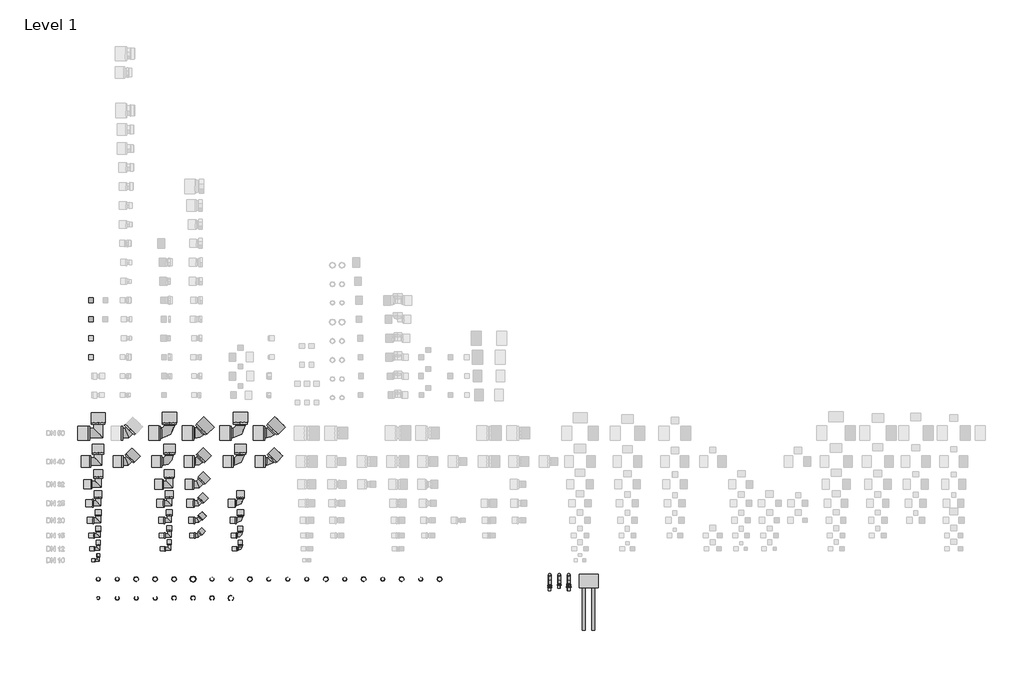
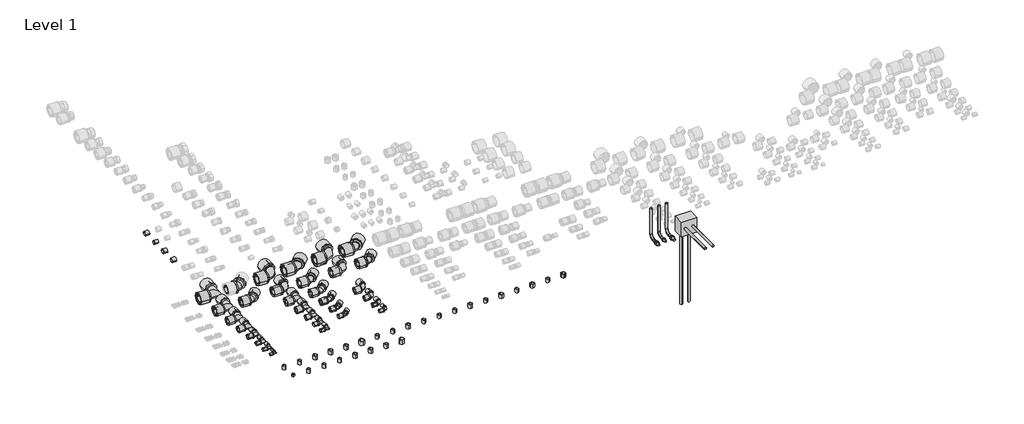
# One storey, part 1 of 6: 126 pipe fittings.
"""IFC4 building model written with IfcOpenShell, lengths in millimetres."""

from ifc_helpers import new_model, si_unit, origin, place, context, project, spatial, transform, mapped, element, save
from components import pipe_fitting_2a92aeec, pipe_fitting_fae9ecd5, pipe_fitting_8b410e5b, pipe_fitting_749d9a03, pipe_fitting_f073d995, pipe_fitting_893392b9, pipe_fitting_709f2c42, pipe_fitting_0a56e29a, pipe_fitting_0746f0ab, pipe_fitting_7ed082ec, pipe_fitting_6fe5a3bb, pipe_fitting_19f48449, pipe_fitting_396ce9a4, pipe_fitting_b82b2fb3, pipe_fitting_1876d1a3, pipe_fitting_9b72dc0c, pipe_fitting_37e15ff8, pipe_fitting_91b0a5e7, pipe_fitting_5c01712a, pipe_fitting_dda8fcc3, pipe_fitting_b25a488c, pipe_fitting_af3e73ed, pipe_fitting_43d15cd9, pipe_fitting_b53712a9, pipe_fitting_861f7b7c, pipe_fitting_66fdde34, pipe_fitting_cdf9e88e, pipe_fitting_7f654206, pipe_fitting_8abba781, pipe_fitting_f0699bc9, pipe_fitting_3b3abbc6, pipe_fitting_4c711bda, pipe_fitting_495cc192, pipe_fitting_8f4a0f1d, pipe_fitting_bdc09fba, pipe_fitting_9d39727a, pipe_fitting_b4838fa6, pipe_fitting_90966a7d, pipe_fitting_6415dcd3, pipe_fitting_7242fcfe, pipe_fitting_c9c9eba3, pipe_fitting_037c3912, pipe_fitting_a8fbe6ac, pipe_fitting_d8f8e9d9, pipe_fitting_02b715f6, pipe_fitting_7a5bf8d1, pipe_fitting_8395c290, pipe_fitting_12adc400, pipe_fitting_81f8a68e, pipe_fitting_8ffa6d79, pipe_fitting_13d5c0a8, pipe_fitting_785edea0

model = new_model("IFC4")

# Units and contexts
model_context = context("Model", 3, world=origin())
ifc_project = project(units=[si_unit("LENGTHUNIT", "METRE", prefix="MILLI")], contexts=[model_context])

# Site, building, storey
site = spatial("IfcSite", under=ifc_project)
building = spatial("IfcBuilding", under=site)
storey = spatial("IfcBuildingStorey", under=building, Name="Level 1", Elevation=0.0)

# Pipe fittings
placement = place(None, origin())
pipe_fitting_shape = pipe_fitting_2a92aeec(model_context)
element("IfcPipeFitting", 1, ObjectType="RAUTITAN_Corner_PX : RTI PX C DE", at=placement, inside=storey, context=model_context, shape_type="MappedRepresentation", body=[
    mapped(pipe_fitting_shape, transform((375.0, 400.0, 0.0), x_axis=(1.0, 0.0, 0.0), y_axis=(0.0, 1.0, 0.0), z_axis=(0.0, 0.0, 1.0))),
])
pipe_fitting_2_shape = pipe_fitting_fae9ecd5(model_context)
element("IfcPipeFitting", 2, ObjectType="RAUTITAN_Corner_RX+ stabil : RTI RX+ stabil C DE", at=placement, inside=storey, context=model_context, shape_type="MappedRepresentation", body=[
    mapped(pipe_fitting_2_shape, transform((375.0, 670.0, 0.0), x_axis=(1.0, 0.0, 0.0), y_axis=(0.0, 1.0, 0.0), z_axis=(0.0, 0.0, 1.0))),
])
pipe_fitting_3_shape = pipe_fitting_8b410e5b(model_context)
element("IfcPipeFitting", 3, ObjectType="RAUTITAN_Corner_RX+ : RTI RX+ C DE", at=placement, inside=storey, context=model_context, shape_type="MappedRepresentation", body=[
    mapped(pipe_fitting_3_shape, transform((750.0, 670.0, 0.0), x_axis=(1.0, 0.0, 0.0), y_axis=(0.0, 1.0, 0.0), z_axis=(0.0, 0.0, 1.0))),
])
pipe_fitting_4_shape = pipe_fitting_749d9a03(model_context)
element("IfcPipeFitting", 4, ObjectType="RAUTITAN_Sleeve PX : RTI S PX", at=placement, inside=storey, context=model_context, shape_type="MappedRepresentation", body=[
    mapped(pipe_fitting_4_shape, transform((200.0, -100.0, -24.8), x_axis=(0.0, 0.0, -1.0), y_axis=(0.0, 1.0, 0.0), z_axis=(1.0, 0.0, 0.0))),
])
element("IfcPipeFitting", 5, ObjectType="RAUTITAN_Sleeve PX : RTI S PX", at=placement, inside=storey, context=model_context, shape_type="MappedRepresentation", body=[
    mapped(pipe_fitting_4_shape, transform((300.0, -100.0, -24.8), x_axis=(0.0, 0.0, -1.0), y_axis=(0.0, 1.0, 0.0), z_axis=(1.0, 0.0, 0.0))),
])
element("IfcPipeFitting", 6, ObjectType="RAUTITAN_Sleeve PX : RTI S PX", at=placement, inside=storey, context=model_context, shape_type="MappedRepresentation", body=[
    mapped(pipe_fitting_4_shape, transform((400.0, -100.0, -27.8), x_axis=(0.0, 0.0, -1.0), y_axis=(0.0, 1.0, 0.0), z_axis=(1.0, 0.0, 0.0))),
])
element("IfcPipeFitting", 7, ObjectType="RAUTITAN_Sleeve PX : RTI S PX", at=placement, inside=storey, context=model_context, shape_type="MappedRepresentation", body=[
    mapped(pipe_fitting_4_shape, transform((799.9229442, -100.0, -24.8), x_axis=(0.0, 0.0, -1.0), y_axis=(0.0, 1.0, 0.0), z_axis=(1.0, 0.0, 0.0))),
])
element("IfcPipeFitting", 8, ObjectType="RAUTITAN_Sleeve PX : RTI S PX", at=placement, inside=storey, context=model_context, shape_type="MappedRepresentation", body=[
    mapped(pipe_fitting_4_shape, transform((1199.7688327, -100.0, -24.8), x_axis=(0.0, 0.0, -1.0), y_axis=(0.0, 1.0, 0.0), z_axis=(1.0, 0.0, 0.0))),
])
element("IfcPipeFitting", 9, ObjectType="RAUTITAN_Sleeve PX : RTI S PX", at=placement, inside=storey, context=model_context, shape_type="MappedRepresentation", body=[
    mapped(pipe_fitting_4_shape, transform((1399.6917769, -100.0, -24.8), x_axis=(0.0, 0.0, -1.0), y_axis=(0.0, 1.0, 0.0), z_axis=(1.0, 0.0, 0.0))),
])
element("IfcPipeFitting", 10, ObjectType="RAUTITAN_Sleeve PX : RTI S PX", at=placement, inside=storey, context=model_context, shape_type="MappedRepresentation", body=[
    mapped(pipe_fitting_4_shape, transform((1599.6147211, -100.0, -24.8), x_axis=(0.0, 0.0, -1.0), y_axis=(0.0, 1.0, 0.0), z_axis=(1.0, 0.0, 0.0))),
])
element("IfcPipeFitting", 11, ObjectType="RAUTITAN_Sleeve PX : RTI S PX", at=placement, inside=storey, context=model_context, shape_type="MappedRepresentation", body=[
    mapped(pipe_fitting_4_shape, transform((1799.5376653, -100.0, -24.8), x_axis=(0.0, 0.0, -1.0), y_axis=(0.0, 1.0, 0.0), z_axis=(1.0, 0.0, 0.0))),
])
pipe_fitting_5_shape = pipe_fitting_f073d995(model_context)
element("IfcPipeFitting", 12, ObjectType="RAUTITAN_Corner_LX : RTI LX C DE", at=placement, inside=storey, context=model_context, shape_type="MappedRepresentation", body=[
    mapped(pipe_fitting_5_shape, transform((150.0, 520.0, 0.0), x_axis=(1.0, 0.0, 0.0), y_axis=(0.0, 1.0, 0.0), z_axis=(0.0, 0.0, 1.0))),
])
pipe_fitting_6_shape = pipe_fitting_893392b9(model_context)
element("IfcPipeFitting", 13, ObjectType="RAUTITAN_Corner_LX : RTI LX C NL", at=placement, inside=storey, context=model_context, shape_type="MappedRepresentation", body=[
    mapped(pipe_fitting_6_shape, transform((0.0, 0.0, 0.0), x_axis=(1.0, 0.0, 0.0), y_axis=(0.0, 1.0, 0.0), z_axis=(0.0, 0.0, 1.0))),
])
pipe_fitting_7_shape = pipe_fitting_709f2c42(model_context)
element("IfcPipeFitting", 14, ObjectType="RAUTITAN_Sleeve SDR 7,4 : RTI S SDR 7,4", at=placement, inside=storey, context=model_context, shape_type="MappedRepresentation", body=[
    mapped(pipe_fitting_7_shape, transform((-18.0, 0.0, 0.0), x_axis=(-1.0, 0.0, 0.0), y_axis=(0.0, -1.0, 0.0), z_axis=(0.0, 0.0, 1.0))),
])
element("IfcPipeFitting", 15, ObjectType="RAUTITAN_Sleeve SDR 7,4 : RTI S SDR 7,4", at=placement, inside=storey, context=model_context, shape_type="MappedRepresentation", body=[
    mapped(pipe_fitting_7_shape, transform((0.0, 18.0, 0.0), x_axis=(0.0, 1.0, 0.0), y_axis=(-1.0, 0.0, 0.0), z_axis=(0.0, 0.0, 1.0))),
])
element("IfcPipeFitting", 16, ObjectType="RAUTITAN_Sleeve SDR 7,4 : RTI S SDR 7,4", at=placement, inside=storey, context=model_context, shape_type="MappedRepresentation", body=[
    mapped(pipe_fitting_7_shape, transform((0.0, -200.0, -23.0), x_axis=(0.0, 0.0, -1.0), y_axis=(0.0, 1.0, 0.0), z_axis=(1.0, 0.0, 0.0))),
])
pipe_fitting_8_shape = pipe_fitting_0a56e29a(model_context)
element("IfcPipeFitting", 17, ObjectType="RAUTITAN_Corner_LX : RTI LX C NL", at=placement, inside=storey, context=model_context, shape_type="MappedRepresentation", body=[
    mapped(pipe_fitting_8_shape, transform((0.0, 60.0, 0.0), x_axis=(1.0, 0.0, 0.0), y_axis=(0.0, 1.0, 0.0), z_axis=(0.0, 0.0, 1.0))),
])
pipe_fitting_9_shape = pipe_fitting_0746f0ab(model_context)
element("IfcPipeFitting", 18, ObjectType="RAUTITAN_Sleeve SDR 7,4 : RTI S SDR 7,4", at=placement, inside=storey, context=model_context, shape_type="MappedRepresentation", body=[
    mapped(pipe_fitting_9_shape, transform((-21.0, 60.0, 0.0), x_axis=(-1.0, 0.0, 0.0), y_axis=(0.0, -1.0, 0.0), z_axis=(0.0, 0.0, 1.0))),
])
element("IfcPipeFitting", 19, ObjectType="RAUTITAN_Sleeve SDR 7,4 : RTI S SDR 7,4", at=placement, inside=storey, context=model_context, shape_type="MappedRepresentation", body=[
    mapped(pipe_fitting_9_shape, transform((0.0, 81.0, 0.0), x_axis=(0.0, 1.0, 0.0), y_axis=(-1.0, 0.0, 0.0), z_axis=(0.0, 0.0, 1.0))),
])
element("IfcPipeFitting", 20, ObjectType="RAUTITAN_Sleeve SDR 7,4 : RTI S SDR 7,4", at=placement, inside=storey, context=model_context, shape_type="MappedRepresentation", body=[
    mapped(pipe_fitting_9_shape, transform((100.0, -200.0, -24.3), x_axis=(0.0, 0.0, -1.0), y_axis=(0.0, 1.0, 0.0), z_axis=(1.0, 0.0, 0.0))),
])
element("IfcPipeFitting", 21, ObjectType="RAUTITAN_Sleeve SDR 7,4 : RTI S SDR 7,4", at=placement, inside=storey, context=model_context, shape_type="MappedRepresentation", body=[
    mapped(pipe_fitting_9_shape, transform((200.0, -200.0, -24.3), x_axis=(0.0, 0.0, -1.0), y_axis=(0.0, 1.0, 0.0), z_axis=(1.0, 0.0, 0.0))),
])
element("IfcPipeFitting", 22, ObjectType="RAUTITAN_Sleeve SDR 7,4 : RTI S SDR 7,4", at=placement, inside=storey, context=model_context, shape_type="MappedRepresentation", body=[
    mapped(pipe_fitting_9_shape, transform((300.0, -200.0, -22.3), x_axis=(0.0, 0.0, -1.0), y_axis=(0.0, 1.0, 0.0), z_axis=(1.0, 0.0, 0.0))),
])
pipe_fitting_10_shape = pipe_fitting_7ed082ec(model_context)
element("IfcPipeFitting", 23, ObjectType="RAUTITAN_Corner_LX : RTI LX C NL", at=placement, inside=storey, context=model_context, shape_type="MappedRepresentation", body=[
    mapped(pipe_fitting_10_shape, transform((0.0, 130.0, 0.0), x_axis=(1.0, 0.0, 0.0), y_axis=(0.0, 1.0, 0.0), z_axis=(0.0, 0.0, 1.0))),
])
pipe_fitting_11_shape = pipe_fitting_6fe5a3bb(model_context)
element("IfcPipeFitting", 24, ObjectType="RAUTITAN_Sleeve SDR 7,4 : RTI S SDR 7,4", at=placement, inside=storey, context=model_context, shape_type="MappedRepresentation", body=[
    mapped(pipe_fitting_11_shape, transform((-23.5, 130.0, 0.0), x_axis=(-1.0, 0.0, 0.0), y_axis=(0.0, -1.0, 0.0), z_axis=(0.0, 0.0, 1.0))),
])
element("IfcPipeFitting", 25, ObjectType="RAUTITAN_Sleeve SDR 7,4 : RTI S SDR 7,4", at=placement, inside=storey, context=model_context, shape_type="MappedRepresentation", body=[
    mapped(pipe_fitting_11_shape, transform((0.0, 153.5, 0.0), x_axis=(0.0, 1.0, 0.0), y_axis=(-1.0, 0.0, 0.0), z_axis=(0.0, 0.0, 1.0))),
])
element("IfcPipeFitting", 26, ObjectType="RAUTITAN_Sleeve SDR 7,4 : RTI S SDR 7,4", at=placement, inside=storey, context=model_context, shape_type="MappedRepresentation", body=[
    mapped(pipe_fitting_11_shape, transform((400.0, -200.0, -24.8), x_axis=(0.0, 0.0, -1.0), y_axis=(0.0, 1.0, 0.0), z_axis=(1.0, 0.0, 0.0))),
])
element("IfcPipeFitting", 27, ObjectType="RAUTITAN_Sleeve SDR 7,4 : RTI S SDR 7,4", at=placement, inside=storey, context=model_context, shape_type="MappedRepresentation", body=[
    mapped(pipe_fitting_11_shape, transform((500.0, -200.0, -24.8), x_axis=(0.0, 0.0, -1.0), y_axis=(0.0, 1.0, 0.0), z_axis=(1.0, 0.0, 0.0))),
])
element("IfcPipeFitting", 28, ObjectType="RAUTITAN_Sleeve SDR 7,4 : RTI S SDR 7,4", at=placement, inside=storey, context=model_context, shape_type="MappedRepresentation", body=[
    mapped(pipe_fitting_11_shape, transform((600.0, -200.0, -27.2), x_axis=(0.0, 0.0, -1.0), y_axis=(0.0, 1.0, 0.0), z_axis=(1.0, 0.0, 0.0))),
])
pipe_fitting_12_shape = pipe_fitting_19f48449(model_context)
element("IfcPipeFitting", 29, ObjectType="RAUTITAN_Corner_LX : RTI LX C NL", at=placement, inside=storey, context=model_context, shape_type="MappedRepresentation", body=[
    mapped(pipe_fitting_12_shape, transform((0.0, 210.0, 0.0), x_axis=(1.0, 0.0, 0.0), y_axis=(0.0, 1.0, 0.0), z_axis=(0.0, 0.0, 1.0))),
])
pipe_fitting_13_shape = pipe_fitting_396ce9a4(model_context)
element("IfcPipeFitting", 30, ObjectType="RAUTITAN_Sleeve SDR 7,4 : RTI S SDR 7,4", at=placement, inside=storey, context=model_context, shape_type="MappedRepresentation", body=[
    mapped(pipe_fitting_13_shape, transform((-27.6, 210.0, 0.0), x_axis=(-1.0, 0.0, 0.0), y_axis=(0.0, -1.0, 0.0), z_axis=(0.0, 0.0, 1.0))),
])
element("IfcPipeFitting", 31, ObjectType="RAUTITAN_Sleeve SDR 7,4 : RTI S SDR 7,4", at=placement, inside=storey, context=model_context, shape_type="MappedRepresentation", body=[
    mapped(pipe_fitting_13_shape, transform((0.0, 237.6, 0.0), x_axis=(0.0, 1.0, 0.0), y_axis=(-1.0, 0.0, 0.0), z_axis=(0.0, 0.0, 1.0))),
])
element("IfcPipeFitting", 32, ObjectType="RAUTITAN_Sleeve SDR 7,4 : RTI S SDR 7,4", at=placement, inside=storey, context=model_context, shape_type="MappedRepresentation", body=[
    mapped(pipe_fitting_13_shape, transform((699.9614721, -200.0, -27.6), x_axis=(0.0, 0.0, -1.0), y_axis=(0.0, 1.0, 0.0), z_axis=(1.0, 0.0, 0.0))),
])
pipe_fitting_14_shape = pipe_fitting_b82b2fb3(model_context)
element("IfcPipeFitting", 33, ObjectType="RAUTITAN_Corner_LX : RTI LX C NL", at=placement, inside=storey, context=model_context, shape_type="MappedRepresentation", body=[
    mapped(pipe_fitting_14_shape, transform((0.0, 300.0, 0.0), x_axis=(1.0, 0.0, 0.0), y_axis=(0.0, 1.0, 0.0), z_axis=(0.0, 0.0, 1.0))),
])
pipe_fitting_15_shape = pipe_fitting_1876d1a3(model_context)
element("IfcPipeFitting", 34, ObjectType="RAUTITAN_Sleeve SDR 7,4 : RTI S SDR 7,4", at=placement, inside=storey, context=model_context, shape_type="MappedRepresentation", body=[
    mapped(pipe_fitting_15_shape, transform((-31.5, 300.0, 0.0), x_axis=(-1.0, 0.0, 0.0), y_axis=(0.0, -1.0, 0.0), z_axis=(0.0, 0.0, 1.0))),
])
element("IfcPipeFitting", 35, ObjectType="RAUTITAN_Sleeve SDR 7,4 : RTI S SDR 7,4", at=placement, inside=storey, context=model_context, shape_type="MappedRepresentation", body=[
    mapped(pipe_fitting_15_shape, transform((0.0, 331.5, 0.0), x_axis=(0.0, 1.0, 0.0), y_axis=(-1.0, 0.0, 0.0), z_axis=(0.0, 0.0, 1.0))),
])
pipe_fitting_16_shape = pipe_fitting_9b72dc0c(model_context)
element("IfcPipeFitting", 36, ObjectType="RAUTITAN_Corner_LX : RTI LX C NL", at=placement, inside=storey, context=model_context, shape_type="MappedRepresentation", body=[
    mapped(pipe_fitting_16_shape, transform((0.0, 400.0, 0.0), x_axis=(1.0, 0.0, 0.0), y_axis=(0.0, 1.0, 0.0), z_axis=(0.0, 0.0, 1.0))),
])
pipe_fitting_17_shape = pipe_fitting_37e15ff8(model_context)
element("IfcPipeFitting", 37, ObjectType="RAUTITAN_Sleeve SDR 7,4 : RTI S SDR 7,4", at=placement, inside=storey, context=model_context, shape_type="MappedRepresentation", body=[
    mapped(pipe_fitting_17_shape, transform((-40.0, 400.0, 0.0), x_axis=(-1.0, 0.0, 0.0), y_axis=(0.0, -1.0, 0.0), z_axis=(0.0, 0.0, 1.0))),
])
element("IfcPipeFitting", 38, ObjectType="RAUTITAN_Sleeve SDR 7,4 : RTI S SDR 7,4", at=placement, inside=storey, context=model_context, shape_type="MappedRepresentation", body=[
    mapped(pipe_fitting_17_shape, transform((0.0, 440.0, 0.0), x_axis=(0.0, 1.0, 0.0), y_axis=(-1.0, 0.0, 0.0), z_axis=(0.0, 0.0, 1.0))),
])
pipe_fitting_18_shape = pipe_fitting_91b0a5e7(model_context)
element("IfcPipeFitting", 39, ObjectType="RAUTITAN_Corner_LX : RTI LX C DE", at=placement, inside=storey, context=model_context, shape_type="MappedRepresentation", body=[
    mapped(pipe_fitting_18_shape, transform((0.0, 520.0, 0.0), x_axis=(1.0, 0.0, 0.0), y_axis=(0.0, 1.0, 0.0), z_axis=(0.0, 0.0, 1.0))),
])
pipe_fitting_19_shape = pipe_fitting_5c01712a(model_context)
element("IfcPipeFitting", 40, ObjectType="RAUTITAN_Sleeve SDR 7,4 : RTI S SDR 7,4", at=placement, inside=storey, context=model_context, shape_type="MappedRepresentation", body=[
    mapped(pipe_fitting_19_shape, transform((-46.0, 520.0, 0.0), x_axis=(-1.0, 0.0, 0.0), y_axis=(0.0, -1.0, 0.0), z_axis=(0.0, 0.0, 1.0))),
])
element("IfcPipeFitting", 41, ObjectType="RAUTITAN_Sleeve SDR 7,4 : RTI S SDR 7,4", at=placement, inside=storey, context=model_context, shape_type="MappedRepresentation", body=[
    mapped(pipe_fitting_19_shape, transform((0.0, 566.0, 0.0), x_axis=(0.0, 1.0, 0.0), y_axis=(-1.0, 0.0, 0.0), z_axis=(0.0, 0.0, 1.0))),
])
element("IfcPipeFitting", 42, ObjectType="RAUTITAN_Sleeve SDR 7,4 : RTI S SDR 7,4", at=placement, inside=storey, context=model_context, shape_type="MappedRepresentation", body=[
    mapped(pipe_fitting_19_shape, transform((124.0, 520.0, 0.0), x_axis=(-1.0, 0.0, 0.0), y_axis=(0.0, -1.0, 0.0), z_axis=(0.0, 0.0, 1.0))),
])
element("IfcPipeFitting", 43, ObjectType="RAUTITAN_Sleeve SDR 7,4 : RTI S SDR 7,4", at=placement, inside=storey, context=model_context, shape_type="MappedRepresentation", body=[
    mapped(pipe_fitting_19_shape, transform((168.3847763, 538.3847763, 0.0), x_axis=(0.7071067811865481, 0.707106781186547, 0.0), y_axis=(-0.707106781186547, 0.7071067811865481, 0.0), z_axis=(0.0, 0.0, 1.0))),
])
pipe_fitting_20_shape = pipe_fitting_dda8fcc3(model_context)
element("IfcPipeFitting", 44, ObjectType="RAUTITAN_Corner_LX : RTI LX C DE", at=placement, inside=storey, context=model_context, shape_type="MappedRepresentation", body=[
    mapped(pipe_fitting_20_shape, transform((0.0, 670.0, 0.0), x_axis=(1.0, 0.0, 0.0), y_axis=(0.0, 1.0, 0.0), z_axis=(0.0, 0.0, 1.0))),
])
pipe_fitting_21_shape = pipe_fitting_b25a488c(model_context)
element("IfcPipeFitting", 45, ObjectType="RAUTITAN_Sleeve SDR 7,4 : RTI S SDR 7,4", at=placement, inside=storey, context=model_context, shape_type="MappedRepresentation", body=[
    mapped(pipe_fitting_21_shape, transform((-54.0, 670.0, 0.0), x_axis=(-1.0, 0.0, 0.0), y_axis=(0.0, -1.0, 0.0), z_axis=(0.0, 0.0, 1.0))),
])
element("IfcPipeFitting", 46, ObjectType="RAUTITAN_Sleeve SDR 7,4 : RTI S SDR 7,4", at=placement, inside=storey, context=model_context, shape_type="MappedRepresentation", body=[
    mapped(pipe_fitting_21_shape, transform((0.0, 724.0, 0.0), x_axis=(0.0, 1.0, 0.0), y_axis=(-1.0, 0.0, 0.0), z_axis=(0.0, 0.0, 1.0))),
])
pipe_fitting_22_shape = pipe_fitting_af3e73ed(model_context)
element("IfcPipeFitting", 47, ObjectType="RAUTITAN_Corner_RX+ stabil : RTI RX+ stabil C DE", at=placement, inside=storey, context=model_context, shape_type="MappedRepresentation", body=[
    mapped(pipe_fitting_22_shape, transform((375.0, 520.0, 0.0), x_axis=(1.0, 0.0, 0.0), y_axis=(0.0, 1.0, 0.0), z_axis=(0.0, 0.0, 1.0))),
])
pipe_fitting_23_shape = pipe_fitting_43d15cd9(model_context)
element("IfcPipeFitting", 48, ObjectType="RAUTITAN_Corner_RX+ stabil : RTI RX+ stabil C DE", at=placement, inside=storey, context=model_context, shape_type="MappedRepresentation", body=[
    mapped(pipe_fitting_23_shape, transform((525.0, 520.0, 0.0), x_axis=(1.0, 0.0, 0.0), y_axis=(0.0, 1.0, 0.0), z_axis=(0.0, 0.0, 1.0))),
])
pipe_fitting_24_shape = pipe_fitting_b53712a9(model_context)
element("IfcPipeFitting", 49, ObjectType="RAUTITAN_Corner_RX+ stabil : RTI RX+ stabil C DE", at=placement, inside=storey, context=model_context, shape_type="MappedRepresentation", body=[
    mapped(pipe_fitting_24_shape, transform((525.0, 670.0, 0.0), x_axis=(1.0, 0.0, 0.0), y_axis=(0.0, 1.0, 0.0), z_axis=(0.0, 0.0, 1.0))),
])
pipe_fitting_25_shape = pipe_fitting_861f7b7c(model_context)
element("IfcPipeFitting", 50, ObjectType="RAUTITAN_Corner_RX+ : RTI RX+ C DE", at=placement, inside=storey, context=model_context, shape_type="MappedRepresentation", body=[
    mapped(pipe_fitting_25_shape, transform((750.0, 520.0, 0.0), x_axis=(1.0, 0.0, 0.0), y_axis=(0.0, 1.0, 0.0), z_axis=(0.0, 0.0, 1.0))),
])
pipe_fitting_26_shape = pipe_fitting_66fdde34(model_context)
element("IfcPipeFitting", 51, ObjectType="RAUTITAN_Corner_RX+ : RTI RX+ C DE", at=placement, inside=storey, context=model_context, shape_type="MappedRepresentation", body=[
    mapped(pipe_fitting_26_shape, transform((900.0, 520.0, 0.0), x_axis=(1.0, 0.0, 0.0), y_axis=(0.0, 1.0, 0.0), z_axis=(0.0, 0.0, 1.0))),
])
pipe_fitting_27_shape = pipe_fitting_cdf9e88e(model_context)
element("IfcPipeFitting", 52, ObjectType="RAUTITAN_Corner_RX+ : RTI RX+ C DE", at=placement, inside=storey, context=model_context, shape_type="MappedRepresentation", body=[
    mapped(pipe_fitting_27_shape, transform((900.0, 670.0, 0.0), x_axis=(1.0, 0.0, 0.0), y_axis=(0.0, 1.0, 0.0), z_axis=(0.0, 0.0, 1.0))),
])
pipe_fitting_28_shape = pipe_fitting_7f654206(model_context)
element("IfcPipeFitting", 53, ObjectType="RAUTITAN_Corner_RX+ : RTI RX+ C DE", at=placement, inside=storey, context=model_context, shape_type="MappedRepresentation", body=[
    mapped(pipe_fitting_28_shape, transform((750.0, 300.0, 0.0), x_axis=(1.0, 0.0, 0.0), y_axis=(0.0, 1.0, 0.0), z_axis=(0.0, 0.0, 1.0))),
])
pipe_fitting_29_shape = pipe_fitting_8abba781(model_context)
element("IfcPipeFitting", 54, ObjectType="RAUTITAN_Corner_RX+ : RTI RX+ C DE", at=placement, inside=storey, context=model_context, shape_type="MappedRepresentation", body=[
    mapped(pipe_fitting_29_shape, transform((750.0, 210.0, 0.0), x_axis=(1.0, 0.0, 0.0), y_axis=(0.0, 1.0, 0.0), z_axis=(0.0, 0.0, 1.0))),
])
pipe_fitting_30_shape = pipe_fitting_f0699bc9(model_context)
element("IfcPipeFitting", 55, ObjectType="RAUTITAN_Corner_PX : RTI PX C DE", at=placement, inside=storey, context=model_context, shape_type="MappedRepresentation", body=[
    mapped(pipe_fitting_30_shape, transform((375.0, 300.0, 0.0), x_axis=(1.0, 0.0, 0.0), y_axis=(0.0, 1.0, 0.0), z_axis=(0.0, 0.0, 1.0))),
])
pipe_fitting_31_shape = pipe_fitting_3b3abbc6(model_context)
element("IfcPipeFitting", 56, ObjectType="RAUTITAN_Corner_PX : RTI PX C DE", at=placement, inside=storey, context=model_context, shape_type="MappedRepresentation", body=[
    mapped(pipe_fitting_31_shape, transform((375.0, 210.0, 0.0), x_axis=(1.0, 0.0, 0.0), y_axis=(0.0, 1.0, 0.0), z_axis=(0.0, 0.0, 1.0))),
])
pipe_fitting_32_shape = pipe_fitting_4c711bda(model_context)
element("IfcPipeFitting", 57, ObjectType="RAUTITAN_Corner_PX : RTI PX C DE", at=placement, inside=storey, context=model_context, shape_type="MappedRepresentation", body=[
    mapped(pipe_fitting_32_shape, transform((375.0, 130.0, 0.0), x_axis=(1.0, 0.0, 0.0), y_axis=(0.0, 1.0, 0.0), z_axis=(0.0, 0.0, 1.0))),
])
pipe_fitting_33_shape = pipe_fitting_495cc192(model_context)
element("IfcPipeFitting", 58, ObjectType="RAUTITAN_Corner_PX : RTI PX C DE", at=placement, inside=storey, context=model_context, shape_type="MappedRepresentation", body=[
    mapped(pipe_fitting_33_shape, transform((375.0, 60.0, 0.0), x_axis=(1.0, 0.0, 0.0), y_axis=(0.0, 1.0, 0.0), z_axis=(0.0, 0.0, 1.0))),
])
pipe_fitting_34_shape = pipe_fitting_8f4a0f1d(model_context)
element("IfcPipeFitting", 59, ObjectType="RAUTITAN_Corner_RX+ : RTI RX+ C DE", at=placement, inside=storey, context=model_context, shape_type="MappedRepresentation", body=[
    mapped(pipe_fitting_34_shape, transform((750.0, 130.0, 0.0), x_axis=(1.0, 0.0, 0.0), y_axis=(0.0, 1.0, 0.0), z_axis=(0.0, 0.0, 1.0))),
])
pipe_fitting_35_shape = pipe_fitting_bdc09fba(model_context)
element("IfcPipeFitting", 60, ObjectType="RAUTITAN_Corner_RX+ : RTI RX+ C DE", at=placement, inside=storey, context=model_context, shape_type="MappedRepresentation", body=[
    mapped(pipe_fitting_35_shape, transform((750.0, 60.0, 0.0), x_axis=(1.0, 0.0, 0.0), y_axis=(0.0, 1.0, 0.0), z_axis=(0.0, 0.0, 1.0))),
])
pipe_fitting_36_shape = pipe_fitting_9d39727a(model_context)
element("IfcPipeFitting", 61, ObjectType="RAUTITAN_Corner_PX : RTI PX C DE", at=placement, inside=storey, context=model_context, shape_type="MappedRepresentation", body=[
    mapped(pipe_fitting_36_shape, transform((525.0, 130.0, 0.0), x_axis=(1.0, 0.0, 0.0), y_axis=(0.0, 1.0, 0.0), z_axis=(0.0, 0.0, 1.0))),
])
pipe_fitting_37_shape = pipe_fitting_b4838fa6(model_context)
element("IfcPipeFitting", 62, ObjectType="RAUTITAN_Corner_PX : RTI PX C DE", at=placement, inside=storey, context=model_context, shape_type="MappedRepresentation", body=[
    mapped(pipe_fitting_37_shape, transform((525.0, 210.0, 0.0), x_axis=(1.0, 0.0, 0.0), y_axis=(0.0, 1.0, 0.0), z_axis=(0.0, 0.0, 1.0))),
])
pipe_fitting_38_shape = pipe_fitting_90966a7d(model_context)
element("IfcPipeFitting", 63, ObjectType="RAUTITAN_Corner_PX : RTI PX C DE", at=placement, inside=storey, context=model_context, shape_type="MappedRepresentation", body=[
    mapped(pipe_fitting_38_shape, transform((525.0, 300.0, 0.0), x_axis=(1.0, 0.0, 0.0), y_axis=(0.0, 1.0, 0.0), z_axis=(0.0, 0.0, 1.0))),
])
pipe_fitting_39_shape = pipe_fitting_6415dcd3(model_context)
element("IfcPipeFitting", 64, ObjectType="RAUTITAN_Corner_PX : RTI PX C DE", at=placement, inside=storey, context=model_context, shape_type="MappedRepresentation", body=[
    mapped(pipe_fitting_39_shape, transform((525.0, 400.0, 0.0), x_axis=(1.0, 0.0, 0.0), y_axis=(0.0, 1.0, 0.0), z_axis=(0.0, 0.0, 1.0))),
])
pipe_fitting_40_shape = pipe_fitting_7242fcfe(model_context)
element("IfcPipeFitting", 65, ObjectType="RAUTITAN_Corner_LX : RTI LX C DE", at=placement, inside=storey, context=model_context, shape_type="MappedRepresentation", body=[
    mapped(pipe_fitting_40_shape, transform((150.0, 670.0, 0.0), x_axis=(1.0, 0.0, 0.0), y_axis=(0.0, 1.0, 0.0), z_axis=(0.0, 0.0, 1.0))),
])
pipe_fitting_41_shape = pipe_fitting_c9c9eba3(model_context)
element("IfcPipeFitting", 66, ObjectType="RAUTITAN_Sleeve PX : RTI S PX", at=placement, inside=storey, context=model_context, shape_type="MappedRepresentation", body=[
    mapped(pipe_fitting_41_shape, transform((350.0, 60.0, 0.0), x_axis=(-1.0, 0.0, 0.0), y_axis=(0.0, -1.0, 0.0), z_axis=(0.0, 0.0, 1.0))),
])
element("IfcPipeFitting", 67, ObjectType="RAUTITAN_Sleeve PX : RTI S PX", at=placement, inside=storey, context=model_context, shape_type="MappedRepresentation", body=[
    mapped(pipe_fitting_41_shape, transform((375.0, 85.0, 0.0), x_axis=(0.0, 1.0, 0.0), y_axis=(-1.0, 0.0, 0.0), z_axis=(0.0, 0.0, 1.0))),
])
element("IfcPipeFitting", 68, ObjectType="RAUTITAN_Sleeve PX : RTI S PX", at=placement, inside=storey, context=model_context, shape_type="MappedRepresentation", body=[
    mapped(pipe_fitting_41_shape, transform((729.1, 60.0, 0.0), x_axis=(-1.0, 0.0, 0.0), y_axis=(0.0, -1.0, 0.0), z_axis=(0.0, 0.0, 1.0))),
])
element("IfcPipeFitting", 69, ObjectType="RAUTITAN_Sleeve PX : RTI S PX", at=placement, inside=storey, context=model_context, shape_type="MappedRepresentation", body=[
    mapped(pipe_fitting_41_shape, transform((750.0, 80.9, 0.0), x_axis=(0.0, 1.0, 0.0), y_axis=(-1.0, 0.0, 0.0), z_axis=(0.0, 0.0, 1.0))),
])
element("IfcPipeFitting", 70, ObjectType="RAUTITAN_Sleeve PX : RTI S PX", at=placement, inside=storey, context=model_context, shape_type="MappedRepresentation", body=[
    mapped(pipe_fitting_4_shape, transform((347.9, 130.0, 0.0), x_axis=(-1.0, 0.0, 0.0), y_axis=(0.0, -1.0, 0.0), z_axis=(0.0, 0.0, 1.0))),
])
element("IfcPipeFitting", 71, ObjectType="RAUTITAN_Sleeve PX : RTI S PX", at=placement, inside=storey, context=model_context, shape_type="MappedRepresentation", body=[
    mapped(pipe_fitting_4_shape, transform((375.0, 157.1, 0.0), x_axis=(0.0, 1.0, 0.0), y_axis=(-1.0, 0.0, 0.0), z_axis=(0.0, 0.0, 1.0))),
])
element("IfcPipeFitting", 72, ObjectType="RAUTITAN_Sleeve PX : RTI S PX", at=placement, inside=storey, context=model_context, shape_type="MappedRepresentation", body=[
    mapped(pipe_fitting_4_shape, transform((726.6, 130.0, 0.0), x_axis=(-1.0, 0.0, 0.0), y_axis=(0.0, -1.0, 0.0), z_axis=(0.0, 0.0, 1.0))),
])
element("IfcPipeFitting", 73, ObjectType="RAUTITAN_Sleeve PX : RTI S PX", at=placement, inside=storey, context=model_context, shape_type="MappedRepresentation", body=[
    mapped(pipe_fitting_4_shape, transform((750.0, 153.4, 0.0), x_axis=(0.0, 1.0, 0.0), y_axis=(-1.0, 0.0, 0.0), z_axis=(0.0, 0.0, 1.0))),
])
element("IfcPipeFitting", 74, ObjectType="RAUTITAN_Sleeve PX : RTI S PX", at=placement, inside=storey, context=model_context, shape_type="MappedRepresentation", body=[
    mapped(pipe_fitting_4_shape, transform((506.6867966, 130.0, 0.0), x_axis=(-1.0, 0.0, 0.0), y_axis=(0.0, -1.0, 0.0), z_axis=(0.0, 0.0, 1.0))),
])
element("IfcPipeFitting", 75, ObjectType="RAUTITAN_Sleeve PX : RTI S PX", at=placement, inside=storey, context=model_context, shape_type="MappedRepresentation", body=[
    mapped(pipe_fitting_4_shape, transform((537.9493903, 142.9493903, 0.0), x_axis=(0.7071067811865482, 0.707106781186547, 0.0), y_axis=(-0.707106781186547, 0.7071067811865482, 0.0), z_axis=(0.0, 0.0, 1.0))),
])
pipe_fitting_42_shape = pipe_fitting_037c3912(model_context)
element("IfcPipeFitting", 76, ObjectType="RAUTITAN_Sleeve PX : RTI S PX", at=placement, inside=storey, context=model_context, shape_type="MappedRepresentation", body=[
    mapped(pipe_fitting_42_shape, transform((345.2, 210.0, 0.0), x_axis=(-1.0, 0.0, 0.0), y_axis=(0.0, -1.0, 0.0), z_axis=(0.0, 0.0, 1.0))),
])
element("IfcPipeFitting", 77, ObjectType="RAUTITAN_Sleeve PX : RTI S PX", at=placement, inside=storey, context=model_context, shape_type="MappedRepresentation", body=[
    mapped(pipe_fitting_42_shape, transform((375.0, 239.8, 0.0), x_axis=(0.0, 1.0, 0.0), y_axis=(-1.0, 0.0, 0.0), z_axis=(0.0, 0.0, 1.0))),
])
element("IfcPipeFitting", 78, ObjectType="RAUTITAN_Sleeve PX : RTI S PX", at=placement, inside=storey, context=model_context, shape_type="MappedRepresentation", body=[
    mapped(pipe_fitting_42_shape, transform((722.5, 210.0, 0.0), x_axis=(-1.0, 0.0, 0.0), y_axis=(0.0, -1.0, 0.0), z_axis=(0.0, 0.0, 1.0))),
])
element("IfcPipeFitting", 79, ObjectType="RAUTITAN_Sleeve PX : RTI S PX", at=placement, inside=storey, context=model_context, shape_type="MappedRepresentation", body=[
    mapped(pipe_fitting_42_shape, transform((750.0, 237.5, 0.0), x_axis=(0.0, 1.0, 0.0), y_axis=(-1.0, 0.0, 0.0), z_axis=(0.0, 0.0, 1.0))),
])
element("IfcPipeFitting", 80, ObjectType="RAUTITAN_Sleeve PX : RTI S PX", at=placement, inside=storey, context=model_context, shape_type="MappedRepresentation", body=[
    mapped(pipe_fitting_42_shape, transform((503.9867966, 210.0, 0.0), x_axis=(-1.0, 0.0, 0.0), y_axis=(0.0, -1.0, 0.0), z_axis=(0.0, 0.0, 1.0))),
])
element("IfcPipeFitting", 81, ObjectType="RAUTITAN_Sleeve PX : RTI S PX", at=placement, inside=storey, context=model_context, shape_type="MappedRepresentation", body=[
    mapped(pipe_fitting_42_shape, transform((539.8585786, 224.8585786, 0.0), x_axis=(0.7071067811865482, 0.707106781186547, 0.0), y_axis=(-0.707106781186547, 0.7071067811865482, 0.0), z_axis=(0.0, 0.0, 1.0))),
])
pipe_fitting_43_shape = pipe_fitting_a8fbe6ac(model_context)
element("IfcPipeFitting", 82, ObjectType="RAUTITAN_Sleeve PX : RTI S PX", at=placement, inside=storey, context=model_context, shape_type="MappedRepresentation", body=[
    mapped(pipe_fitting_43_shape, transform((342.0, 300.0, 0.0), x_axis=(-1.0, 0.0, 0.0), y_axis=(0.0, -1.0, 0.0), z_axis=(0.0, 0.0, 1.0))),
])
element("IfcPipeFitting", 83, ObjectType="RAUTITAN_Sleeve PX : RTI S PX", at=placement, inside=storey, context=model_context, shape_type="MappedRepresentation", body=[
    mapped(pipe_fitting_43_shape, transform((375.0, 333.0, 0.0), x_axis=(0.0, 1.0, 0.0), y_axis=(-1.0, 0.0, 0.0), z_axis=(0.0, 0.0, 1.0))),
])
element("IfcPipeFitting", 84, ObjectType="RAUTITAN_Sleeve PX : RTI S PX", at=placement, inside=storey, context=model_context, shape_type="MappedRepresentation", body=[
    mapped(pipe_fitting_43_shape, transform((718.6, 300.0, 0.0), x_axis=(-1.0, 0.0, 0.0), y_axis=(0.0, -1.0, 0.0), z_axis=(0.0, 0.0, 1.0))),
])
element("IfcPipeFitting", 85, ObjectType="RAUTITAN_Sleeve PX : RTI S PX", at=placement, inside=storey, context=model_context, shape_type="MappedRepresentation", body=[
    mapped(pipe_fitting_43_shape, transform((750.0, 331.4, 0.0), x_axis=(0.0, 1.0, 0.0), y_axis=(-1.0, 0.0, 0.0), z_axis=(0.0, 0.0, 1.0))),
])
element("IfcPipeFitting", 86, ObjectType="RAUTITAN_Sleeve PX : RTI S PX", at=placement, inside=storey, context=model_context, shape_type="MappedRepresentation", body=[
    mapped(pipe_fitting_43_shape, transform((500.7867966, 300.0, 0.0), x_axis=(-1.0, 0.0, 0.0), y_axis=(0.0, -1.0, 0.0), z_axis=(0.0, 0.0, 1.0))),
])
element("IfcPipeFitting", 87, ObjectType="RAUTITAN_Sleeve PX : RTI S PX", at=placement, inside=storey, context=model_context, shape_type="MappedRepresentation", body=[
    mapped(pipe_fitting_43_shape, transform((542.1213203, 317.1213203, 0.0), x_axis=(0.7071067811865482, 0.707106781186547, 0.0), y_axis=(-0.707106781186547, 0.7071067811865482, 0.0), z_axis=(0.0, 0.0, 1.0))),
])
pipe_fitting_44_shape = pipe_fitting_d8f8e9d9(model_context)
element("IfcPipeFitting", 88, ObjectType="RAUTITAN_Sleeve PX : RTI S PX", at=placement, inside=storey, context=model_context, shape_type="MappedRepresentation", body=[
    mapped(pipe_fitting_44_shape, transform((337.0, 400.0, 0.0), x_axis=(-1.0, 0.0, 0.0), y_axis=(0.0, -1.0, 0.0), z_axis=(0.0, 0.0, 1.0))),
])
element("IfcPipeFitting", 89, ObjectType="RAUTITAN_Sleeve PX : RTI S PX", at=placement, inside=storey, context=model_context, shape_type="MappedRepresentation", body=[
    mapped(pipe_fitting_44_shape, transform((375.0, 438.0, 0.0), x_axis=(0.0, 1.0, 0.0), y_axis=(-1.0, 0.0, 0.0), z_axis=(0.0, 0.0, 1.0))),
])
element("IfcPipeFitting", 90, ObjectType="RAUTITAN_Sleeve PX : RTI S PX", at=placement, inside=storey, context=model_context, shape_type="MappedRepresentation", body=[
    mapped(pipe_fitting_44_shape, transform((495.7867966, 400.0, 0.0), x_axis=(-1.0, 0.0, 0.0), y_axis=(0.0, -1.0, 0.0), z_axis=(0.0, 0.0, 1.0))),
])
element("IfcPipeFitting", 91, ObjectType="RAUTITAN_Sleeve PX : RTI S PX", at=placement, inside=storey, context=model_context, shape_type="MappedRepresentation", body=[
    mapped(pipe_fitting_44_shape, transform((545.6568542, 420.6568542, 0.0), x_axis=(0.7071067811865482, 0.707106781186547, 0.0), y_axis=(-0.707106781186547, 0.7071067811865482, 0.0), z_axis=(0.0, 0.0, 1.0))),
])
pipe_fitting_45_shape = pipe_fitting_02b715f6(model_context)
element("IfcPipeFitting", 92, ObjectType="RAUTITAN_Sleeve PX : RTI S PX", at=placement, inside=storey, context=model_context, shape_type="MappedRepresentation", body=[
    mapped(pipe_fitting_45_shape, transform((375.0, 566.5, 0.0), x_axis=(0.0, 1.0, 0.0), y_axis=(-1.0, 0.0, 0.0), z_axis=(0.0, 0.0, 1.0))),
])
element("IfcPipeFitting", 93, ObjectType="RAUTITAN_Sleeve PX : RTI S PX", at=placement, inside=storey, context=model_context, shape_type="MappedRepresentation", body=[
    mapped(pipe_fitting_45_shape, transform((328.5, 520.0, 0.0), x_axis=(-1.0, 0.0, 0.0), y_axis=(0.0, -1.0, 0.0), z_axis=(0.0, 0.0, 1.0))),
])
element("IfcPipeFitting", 94, ObjectType="RAUTITAN_Sleeve PX : RTI S PX", at=placement, inside=storey, context=model_context, shape_type="MappedRepresentation", body=[
    mapped(pipe_fitting_45_shape, transform((543.7383297, 538.7383297, 0.0), x_axis=(0.7071067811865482, 0.707106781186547, 0.0), y_axis=(-0.707106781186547, 0.7071067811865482, 0.0), z_axis=(0.0, 0.0, 1.0))),
])
element("IfcPipeFitting", 95, ObjectType="RAUTITAN_Sleeve PX : RTI S PX", at=placement, inside=storey, context=model_context, shape_type="MappedRepresentation", body=[
    mapped(pipe_fitting_45_shape, transform((498.5, 520.0, 0.0), x_axis=(-1.0, 0.0, 0.0), y_axis=(0.0, -1.0, 0.0), z_axis=(0.0, 0.0, 1.0))),
])
element("IfcPipeFitting", 96, ObjectType="RAUTITAN_Sleeve PX : RTI S PX", at=placement, inside=storey, context=model_context, shape_type="MappedRepresentation", body=[
    mapped(pipe_fitting_45_shape, transform((703.8, 520.0, 0.0), x_axis=(-1.0, 0.0, 0.0), y_axis=(0.0, -1.0, 0.0), z_axis=(0.0, 0.0, 1.0))),
])
element("IfcPipeFitting", 97, ObjectType="RAUTITAN_Sleeve PX : RTI S PX", at=placement, inside=storey, context=model_context, shape_type="MappedRepresentation", body=[
    mapped(pipe_fitting_45_shape, transform((750.0, 566.2, 0.0), x_axis=(0.0, 1.0, 0.0), y_axis=(-1.0, 0.0, 0.0), z_axis=(0.0, 0.0, 1.0))),
])
element("IfcPipeFitting", 98, ObjectType="RAUTITAN_Sleeve PX : RTI S PX", at=placement, inside=storey, context=model_context, shape_type="MappedRepresentation", body=[
    mapped(pipe_fitting_45_shape, transform((873.6, 520.0, 0.0), x_axis=(-1.0, 0.0, 0.0), y_axis=(0.0, -1.0, 0.0), z_axis=(0.0, 0.0, 1.0))),
])
element("IfcPipeFitting", 99, ObjectType="RAUTITAN_Sleeve PX : RTI S PX", at=placement, inside=storey, context=model_context, shape_type="MappedRepresentation", body=[
    mapped(pipe_fitting_45_shape, transform((918.667619, 538.667619, 0.0), x_axis=(0.707106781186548, 0.707106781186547, 0.0), y_axis=(-0.707106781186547, 0.707106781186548, 0.0), z_axis=(0.0, 0.0, 1.0))),
])
pipe_fitting_46_shape = pipe_fitting_7a5bf8d1(model_context)
element("IfcPipeFitting", 100, ObjectType="RAUTITAN_Sleeve PX : RTI S PX", at=placement, inside=storey, context=model_context, shape_type="MappedRepresentation", body=[
    mapped(pipe_fitting_46_shape, transform((375.0, 725.6, 0.0), x_axis=(0.0, 1.0, 0.0), y_axis=(-1.0, 0.0, 0.0), z_axis=(0.0, 0.0, 1.0))),
])
element("IfcPipeFitting", 101, ObjectType="RAUTITAN_Sleeve PX : RTI S PX", at=placement, inside=storey, context=model_context, shape_type="MappedRepresentation", body=[
    mapped(pipe_fitting_46_shape, transform((319.4, 670.0, 0.0), x_axis=(-1.0, 0.0, 0.0), y_axis=(0.0, -1.0, 0.0), z_axis=(0.0, 0.0, 1.0))),
])
element("IfcPipeFitting", 102, ObjectType="RAUTITAN_Sleeve PX : RTI S PX", at=placement, inside=storey, context=model_context, shape_type="MappedRepresentation", body=[
    mapped(pipe_fitting_46_shape, transform((546.2132034, 691.2132034, 0.0), x_axis=(0.7071067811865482, 0.707106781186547, 0.0), y_axis=(-0.707106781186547, 0.7071067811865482, 0.0), z_axis=(0.0, 0.0, 1.0))),
])
element("IfcPipeFitting", 103, ObjectType="RAUTITAN_Sleeve PX : RTI S PX", at=placement, inside=storey, context=model_context, shape_type="MappedRepresentation", body=[
    mapped(pipe_fitting_46_shape, transform((495.0, 670.0, 0.0), x_axis=(-1.0, 0.0, 0.0), y_axis=(0.0, -1.0, 0.0), z_axis=(0.0, 0.0, 1.0))),
])
element("IfcPipeFitting", 104, ObjectType="RAUTITAN_Sleeve PX : RTI S PX", at=placement, inside=storey, context=model_context, shape_type="MappedRepresentation", body=[
    mapped(pipe_fitting_46_shape, transform((693.8, 670.0, 0.0), x_axis=(-1.0, 0.0, 0.0), y_axis=(0.0, -1.0, 0.0), z_axis=(0.0, 0.0, 1.0))),
])
element("IfcPipeFitting", 105, ObjectType="RAUTITAN_Sleeve PX : RTI S PX", at=placement, inside=storey, context=model_context, shape_type="MappedRepresentation", body=[
    mapped(pipe_fitting_46_shape, transform((750.0, 726.2, 0.0), x_axis=(0.0, 1.0, 0.0), y_axis=(-1.0, 0.0, 0.0), z_axis=(0.0, 0.0, 1.0))),
])
element("IfcPipeFitting", 106, ObjectType="RAUTITAN_Sleeve PX : RTI S PX", at=placement, inside=storey, context=model_context, shape_type="MappedRepresentation", body=[
    mapped(pipe_fitting_46_shape, transform((870.0, 670.0, 0.0), x_axis=(-1.0, 0.0, 0.0), y_axis=(0.0, -1.0, 0.0), z_axis=(0.0, 0.0, 1.0))),
])
element("IfcPipeFitting", 107, ObjectType="RAUTITAN_Sleeve PX : RTI S PX", at=placement, inside=storey, context=model_context, shape_type="MappedRepresentation", body=[
    mapped(pipe_fitting_46_shape, transform((921.2132034, 691.2132034, 0.0), x_axis=(0.707106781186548, 0.707106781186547, 0.0), y_axis=(-0.707106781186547, 0.707106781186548, 0.0), z_axis=(0.0, 0.0, 1.0))),
])
element("IfcPipeFitting", 108, ObjectType="RAUTITAN_Sleeve PX : RTI S PX", at=placement, inside=storey, context=model_context, shape_type="MappedRepresentation", body=[
    mapped(pipe_fitting_41_shape, transform((0.0, -100.0, -25.5), x_axis=(0.0, 0.0, -1.0), y_axis=(0.0, 1.0, 0.0), z_axis=(1.0, 0.0, 0.0))),
])
element("IfcPipeFitting", 109, ObjectType="RAUTITAN_Sleeve PX : RTI S PX", at=placement, inside=storey, context=model_context, shape_type="MappedRepresentation", body=[
    mapped(pipe_fitting_41_shape, transform((100.0, -100.0, -25.5), x_axis=(0.0, 0.0, -1.0), y_axis=(0.0, 1.0, 0.0), z_axis=(1.0, 0.0, 0.0))),
])
element("IfcPipeFitting", 110, ObjectType="RAUTITAN_Sleeve PX : RTI S PX", at=placement, inside=storey, context=model_context, shape_type="MappedRepresentation", body=[
    mapped(pipe_fitting_41_shape, transform((600.0, -100.0, -25.5), x_axis=(0.0, 0.0, -1.0), y_axis=(0.0, 1.0, 0.0), z_axis=(1.0, 0.0, 0.0))),
])
element("IfcPipeFitting", 111, ObjectType="RAUTITAN_Sleeve PX : RTI S PX", at=placement, inside=storey, context=model_context, shape_type="MappedRepresentation", body=[
    mapped(pipe_fitting_41_shape, transform((699.9614721, -100.0, -25.5), x_axis=(0.0, 0.0, -1.0), y_axis=(0.0, 1.0, 0.0), z_axis=(1.0, 0.0, 0.0))),
])
element("IfcPipeFitting", 112, ObjectType="RAUTITAN_Sleeve PX : RTI S PX", at=placement, inside=storey, context=model_context, shape_type="MappedRepresentation", body=[
    mapped(pipe_fitting_41_shape, transform((899.8844163, -100.0, -25.5), x_axis=(0.0, 0.0, -1.0), y_axis=(0.0, 1.0, 0.0), z_axis=(1.0, 0.0, 0.0))),
])
element("IfcPipeFitting", 113, ObjectType="RAUTITAN_Sleeve PX : RTI S PX", at=placement, inside=storey, context=model_context, shape_type="MappedRepresentation", body=[
    mapped(pipe_fitting_41_shape, transform((999.8458884, -100.0, -25.5), x_axis=(0.0, 0.0, -1.0), y_axis=(0.0, 1.0, 0.0), z_axis=(1.0, 0.0, 0.0))),
])
element("IfcPipeFitting", 114, ObjectType="RAUTITAN_Sleeve PX : RTI S PX", at=placement, inside=storey, context=model_context, shape_type="MappedRepresentation", body=[
    mapped(pipe_fitting_41_shape, transform((1099.8073606, -100.0, -25.5), x_axis=(0.0, 0.0, -1.0), y_axis=(0.0, 1.0, 0.0), z_axis=(1.0, 0.0, 0.0))),
])
element("IfcPipeFitting", 115, ObjectType="RAUTITAN_Sleeve PX : RTI S PX", at=placement, inside=storey, context=model_context, shape_type="MappedRepresentation", body=[
    mapped(pipe_fitting_41_shape, transform((1299.7303048, -100.0, -25.5), x_axis=(0.0, 0.0, -1.0), y_axis=(0.0, 1.0, 0.0), z_axis=(1.0, 0.0, 0.0))),
])
element("IfcPipeFitting", 116, ObjectType="RAUTITAN_Sleeve PX : RTI S PX", at=placement, inside=storey, context=model_context, shape_type="MappedRepresentation", body=[
    mapped(pipe_fitting_41_shape, transform((1499.653249, -100.0, -25.5), x_axis=(0.0, 0.0, -1.0), y_axis=(0.0, 1.0, 0.0), z_axis=(1.0, 0.0, 0.0))),
])
element("IfcPipeFitting", 117, ObjectType="RAUTITAN_Sleeve PX : RTI S PX", at=placement, inside=storey, context=model_context, shape_type="MappedRepresentation", body=[
    mapped(pipe_fitting_41_shape, transform((1699.5761932, -100.0, -25.5), x_axis=(0.0, 0.0, -1.0), y_axis=(0.0, 1.0, 0.0), z_axis=(1.0, 0.0, 0.0))),
])
element("IfcPipeFitting", 118, ObjectType="RAUTITAN_Sleeve PX : RTI S PX", at=placement, inside=storey, context=model_context, shape_type="MappedRepresentation", body=[
    mapped(pipe_fitting_42_shape, transform((500.0, -100.0, -27.5), x_axis=(0.0, 0.0, -1.0), y_axis=(0.0, 1.0, 0.0), z_axis=(1.0, 0.0, 0.0))),
])
pipe_fitting_47_shape = pipe_fitting_8395c290(model_context)
element("IfcPipeFitting", 119, ObjectType="RAUTITAN_Radiator WAG16 Brass : RAUTITAN_Radiator WAG16 Brass", at=placement, inside=storey, context=model_context, shape_type="MappedRepresentation", body=[
    mapped(pipe_fitting_47_shape, transform((2380.0, -76.2688554, 0.0), x_axis=(1.0, 0.0, 0.0), y_axis=(0.0, 1.0, 0.0), z_axis=(0.0, 0.0, 1.0))),
])
pipe_fitting_48_shape = pipe_fitting_12adc400(model_context)
element("IfcPipeFitting", 120, ObjectType="RAUTITAN_Radiator WAG16 : RAUTITAN_Radiator WAG16", at=placement, inside=storey, context=model_context, shape_type="MappedRepresentation", body=[
    mapped(pipe_fitting_48_shape, transform((2430.0, -76.2688554, 0.0), x_axis=(1.0, 0.0, 0.0), y_axis=(0.0, 1.0, 0.0), z_axis=(0.0, 0.0, 1.0))),
])
pipe_fitting_49_shape = pipe_fitting_81f8a68e(model_context)
element("IfcPipeFitting", 121, ObjectType="RAUTITAN_Radiator WAG20 : RAUTITAN_Radiator WAG20", at=placement, inside=storey, context=model_context, shape_type="MappedRepresentation", body=[
    mapped(pipe_fitting_49_shape, transform((2480.0, -76.2688554, 0.0), x_axis=(1.0, 0.0, 0.0), y_axis=(0.0, 1.0, 0.0), z_axis=(0.0, 0.0, 1.0))),
])
pipe_fitting_50_shape = pipe_fitting_8ffa6d79(model_context)
element("IfcPipeFitting", 122, ObjectType="RAUTITAN_Radiatorconnection box : RAUTITAN_Radiatorconnection box", at=placement, inside=storey, context=model_context, shape_type="MappedRepresentation", body=[
    mapped(pipe_fitting_50_shape, transform((2585.0, -100.0, -500.0), x_axis=(1.0, 0.0, 0.0), y_axis=(0.0, 1.0, 0.0), z_axis=(0.0, 0.0, 1.0))),
])
pipe_fitting_51_shape = pipe_fitting_13d5c0a8(model_context)
element("IfcPipeFitting", 123, ObjectType="REHAU_RAUTITAN_Sleeve_PX : REHAU_RAUTITAN_Sleeve_PX", at=placement, inside=storey, context=model_context, shape_type="MappedRepresentation", body=[
    mapped(pipe_fitting_51_shape, transform((-25.3, 1270.0, 0.0), x_axis=(-1.0, 0.0, 0.0), y_axis=(0.0, -1.0, 0.0), z_axis=(0.0, 0.0, 1.0))),
])
pipe_fitting_52_shape = pipe_fitting_785edea0(model_context)
element("IfcPipeFitting", 124, ObjectType="REHAU_RAUTITAN_Sleeve_PX : REHAU_RAUTITAN_Sleeve_PX", at=placement, inside=storey, context=model_context, shape_type="MappedRepresentation", body=[
    mapped(pipe_fitting_52_shape, transform((-50.19, 1070.0060408, 0.0), x_axis=(1.0, 0.0, 0.0), y_axis=(0.0, 1.0, 0.0), z_axis=(0.0, 0.0, 1.0))),
])
element("IfcPipeFitting", 125, ObjectType="REHAU_RAUTITAN_Sleeve_PX : REHAU_RAUTITAN_Sleeve_PX", at=placement, inside=storey, context=model_context, shape_type="MappedRepresentation", body=[
    mapped(pipe_fitting_52_shape, transform((-50.19, 1170.0060408, 0.0), x_axis=(1.0, 0.0, 0.0), y_axis=(0.0, 1.0, 0.0), z_axis=(0.0, 0.0, 1.0))),
])
element("IfcPipeFitting", 126, ObjectType="REHAU_RAUTITAN_Sleeve_PX : REHAU_RAUTITAN_Sleeve_PX", at=placement, inside=storey, context=model_context, shape_type="MappedRepresentation", body=[
    mapped(pipe_fitting_52_shape, transform((-25.8, 1370.0, 0.0), x_axis=(-1.0, 0.0, 0.0), y_axis=(0.0, -1.0, 0.0), z_axis=(0.0, 0.0, 1.0))),
])

save(model, "model.ifc")
